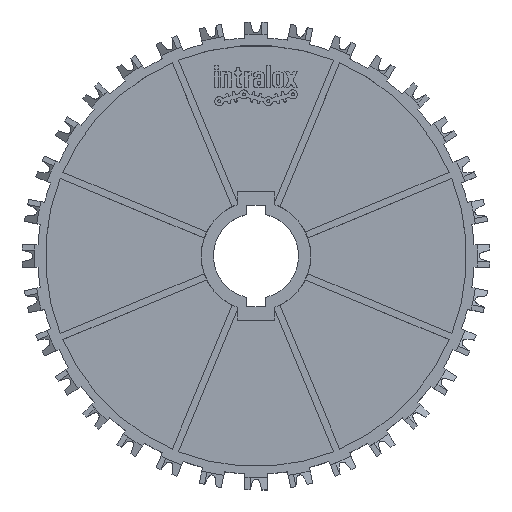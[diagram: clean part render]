
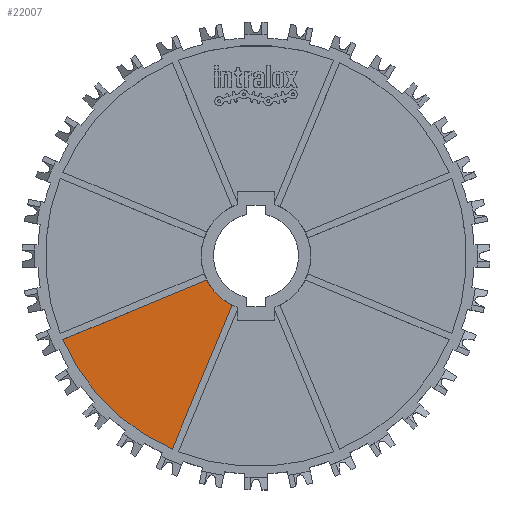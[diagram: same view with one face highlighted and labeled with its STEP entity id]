
A CAD part, top view. The second image highlights one B-rep face of the part: STEP entity #22007.
In plain terms, the highlighted planar face has unit normal (0, 0, 1).
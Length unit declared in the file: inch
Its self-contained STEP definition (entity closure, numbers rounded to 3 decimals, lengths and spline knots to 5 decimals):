
#7199=CARTESIAN_POINT('',(0.,0.,0.09));
#7200=DIRECTION('',(0.,0.,1.));
#7201=DIRECTION('',(-0.898,-0.439,0.));
#7202=AXIS2_PLACEMENT_3D('',#7199,#7200,#7201);
#8307=DIRECTION('',(0.383,0.924,0.));
#8308=VECTOR('',#8307,2.06303);
#8309=CARTESIAN_POINT('',(-1.10797,-2.5573,0.09));
#8310=LINE('',#8309,#8308);
#8320=CARTESIAN_POINT('',(0.,0.,0.09));
#8321=DIRECTION('',(0.,0.,1.));
#8322=DIRECTION('',(-0.918,-0.398,0.));
#8323=AXIS2_PLACEMENT_3D('',#8320,#8321,#8322);
#8341=DIRECTION('',(-0.924,-0.383,0.));
#8342=VECTOR('',#8341,2.06303);
#8343=CARTESIAN_POINT('',(-0.6513,-0.31849,0.09));
#8344=LINE('',#8343,#8342);
#10683=CARTESIAN_POINT('',(-2.5573,-1.10797,0.09));
#10684=CARTESIAN_POINT('',(-1.10797,-2.5573,0.09));
#10685=VERTEX_POINT('',#10683);
#10686=VERTEX_POINT('',#10684);
#12311=CARTESIAN_POINT('',(-0.6513,-0.31849,0.09));
#12312=VERTEX_POINT('',#12311);
#12315=CARTESIAN_POINT('',(-0.31849,-0.6513,0.09));
#12316=VERTEX_POINT('',#12315);
#21993=CARTESIAN_POINT('',(0.,0.,0.09));
#21994=DIRECTION('',(0.,0.,1.));
#21995=DIRECTION('',(1.,0.,0.));
#21996=AXIS2_PLACEMENT_3D('',#21993,#21994,#21995);
#21997=PLANE('',#21996);
#21998=ORIENTED_EDGE('',*,*,#20940,.T.);
#22000=ORIENTED_EDGE('',*,*,#21999,.F.);
#22002=ORIENTED_EDGE('',*,*,#22001,.F.);
#22004=ORIENTED_EDGE('',*,*,#22003,.F.);
#22005=EDGE_LOOP('',(#21998,#22000,#22002,#22004));
#22006=FACE_OUTER_BOUND('',#22005,.F.);
#22007=ADVANCED_FACE('',(#22006),#21997,.T.);
#7203=CIRCLE('',#7202,0.725);
#8324=CIRCLE('',#8323,2.787);
#20940=EDGE_CURVE('',#12312,#12316,#7203,.T.);
#21999=EDGE_CURVE('',#10686,#12316,#8310,.T.);
#22001=EDGE_CURVE('',#10685,#10686,#8324,.T.);
#22003=EDGE_CURVE('',#12312,#10685,#8344,.T.);
